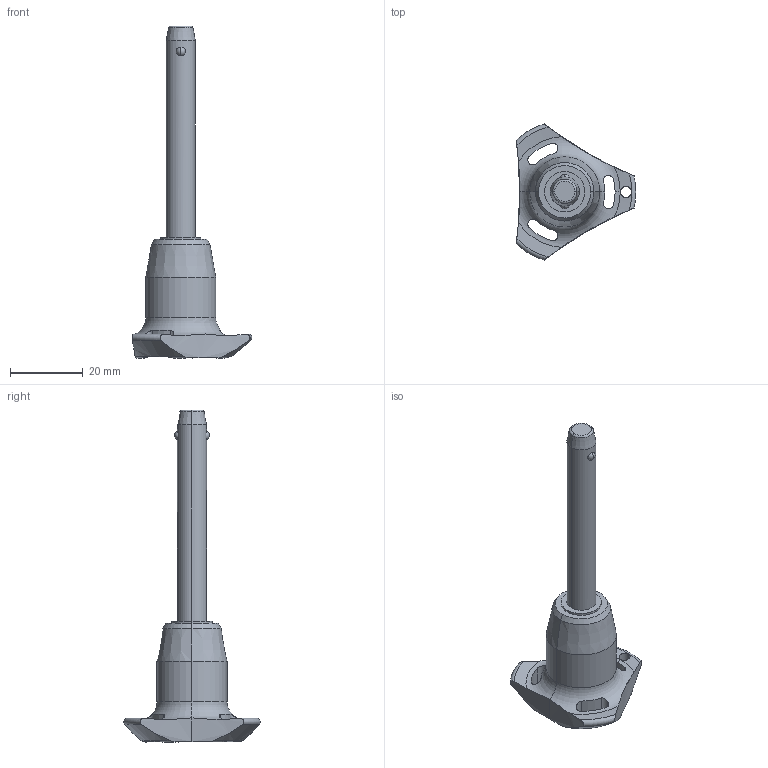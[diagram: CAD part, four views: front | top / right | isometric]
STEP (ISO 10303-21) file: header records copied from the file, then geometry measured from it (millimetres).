
FILE_DESCRIPTION (( 'STEP AP203' ), '1' );
FILE_NAME ('QR1734.M08-050-S.step', '2025-11-12T14:21:59', ( '' ), ( '' ), 'SwSTEP 2.0', 'SolidWorks 2019', '' );
FILE_SCHEMA (( 'CONFIG_CONTROL_DESIGN' ));
Length unit declared in the file: millimetre
Products named in the file (1): QR1734.M08-050-S
Bounding box: 33 x 37.51 x 91.5 mm (x, y, z)
Volume: 13163.5 mm3; surface area: 5311.2 mm2
Topology: 1 solids, 1 shells, 65 faces, 174 edges, 109 vertices
Faces by surface type: cylinder 30, cone 14, torus 11, sphere 6, plane 4
Entity records: 2746 total; most frequent: CARTESIAN_POINT 1073, ORIENTED_EDGE 348, DIRECTION 331, EDGE_CURVE 174, AXIS2_PLACEMENT_3D 147, VERTEX_POINT 109, CIRCLE 81, EDGE_LOOP 71
